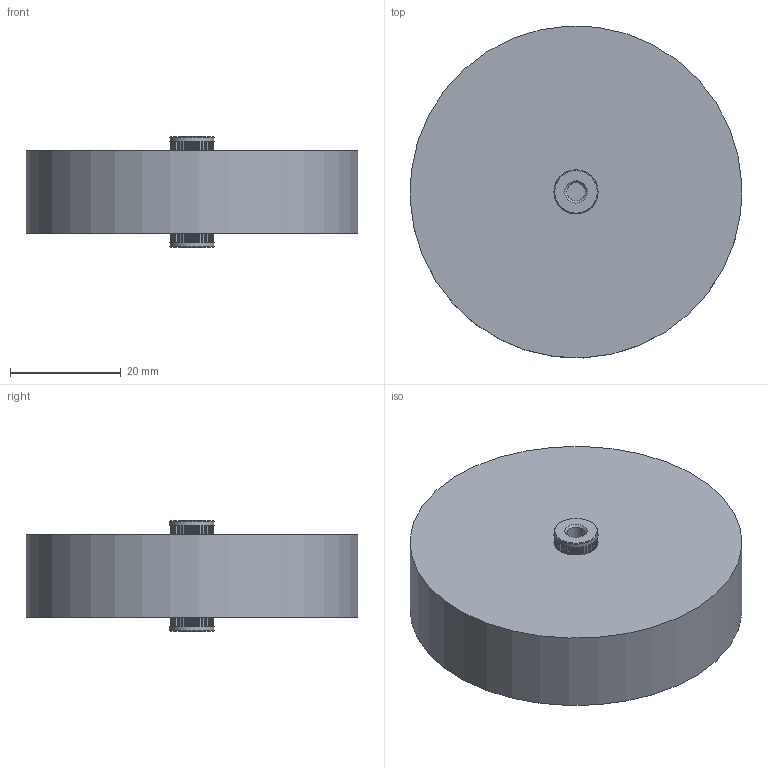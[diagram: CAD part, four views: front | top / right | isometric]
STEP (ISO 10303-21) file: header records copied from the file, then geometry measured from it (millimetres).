
FILE_DESCRIPTION((''),'2;1');
FILE_NAME('I:\Marketing\M6t1\M6T1 - Internal\Drawings\Werk 3\Finished product\Ceramite\Upload for homepage\715\Unterordner\715C15KTS53\Bauteil3.stp','2013-06-10T10:41:18',('sherden'),(''),'Autodesk Inventor 2013','Autodesk Inventor 2013','');
FILE_SCHEMA(('AUTOMOTIVE_DESIGN { 1 2 10303 214 0 1 1 1 }'));
Length unit declared in the file: millimetre
Products named in the file (1): Bauteil3
Bounding box: 59.94 x 59.94 x 20 mm (x, y, z)
Volume: 42340.7 mm3; surface area: 8851.5 mm2
Topology: 1 solids, 1 shells, 575 faces, 1623 edges, 1054 vertices
Faces by surface type: plane 486, cylinder 85, cone 4
Full cylindrical faces by diameter (mm): 3.302 x2, 7.95 x2, 60 x1
Entity records: 18969 total; most frequent: CARTESIAN_POINT 3240, ORIENTED_EDGE 3224, DIRECTION 3096, EDGE_CURVE 1612, VECTOR 1280, LINE 1280, VERTEX_POINT 1052, AXIS2_PLACEMENT_3D 908
